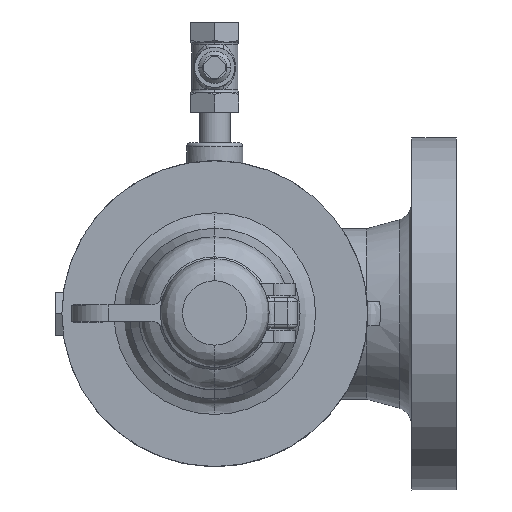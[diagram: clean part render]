
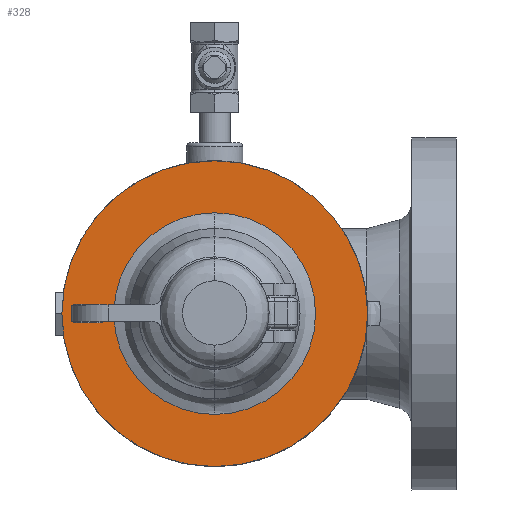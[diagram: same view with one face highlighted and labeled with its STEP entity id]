
A CAD part, top view. The second image highlights one B-rep face of the part: STEP entity #328.
In plain terms, the highlighted planar face has unit normal (0, 0, 1) as drawn and (0, 1, 0) by its records, which use the part's own axes.
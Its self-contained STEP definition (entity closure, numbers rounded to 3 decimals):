
#328=ADVANCED_FACE('',(#1243,#1244),#1242,.T.);
#1242=PLANE('',#7386);
#1243=FACE_OUTER_BOUND('',#7387,.T.);
#1244=FACE_BOUND('',#7388,.T.);
#7383=CARTESIAN_POINT('',(-141.636,90.,-162.));
#7384=DIRECTION('',(0.,1.,0.));
#7385=DIRECTION('',(0.,0.,1.));
#7386=AXIS2_PLACEMENT_3D('',#7383,#7384,#7385);
#7387=EDGE_LOOP('',(#16976,#16977));
#7388=EDGE_LOOP('',(#16978,#16979));
#16976=ORIENTED_EDGE('',*,*,#18742,.T.);
#16977=ORIENTED_EDGE('',*,*,#18743,.T.);
#16978=ORIENTED_EDGE('',*,*,#18744,.T.);
#16979=ORIENTED_EDGE('',*,*,#18745,.T.);
#18742=EDGE_CURVE('',#21100,#21101,#21102,.T.);
#18743=EDGE_CURVE('',#21101,#21100,#21108,.T.);
#18744=EDGE_CURVE('',#21114,#21115,#21116,.T.);
#18745=EDGE_CURVE('',#21115,#21114,#21122,.T.);
#21100=VERTEX_POINT('',#27540);
#21101=VERTEX_POINT('',#27541);
#21102=CIRCLE('',#27545,76.);
#21108=CIRCLE('',#27549,76.);
#21114=VERTEX_POINT('',#27550);
#21115=VERTEX_POINT('',#27551);
#21116=CIRCLE('',#27555,50.139);
#21122=CIRCLE('',#27559,50.139);
#27540=CARTESIAN_POINT('',(0.,90.,76.));
#27541=CARTESIAN_POINT('',(0.,90.,-76.));
#27542=CARTESIAN_POINT('',(0.,90.,0.));
#27543=DIRECTION('',(0.,1.,0.));
#27544=DIRECTION('',(0.,0.,1.));
#27545=AXIS2_PLACEMENT_3D('',#27542,#27543,#27544);
#27546=CARTESIAN_POINT('',(0.,90.,0.));
#27547=DIRECTION('',(0.,1.,0.));
#27548=DIRECTION('',(0.,0.,1.));
#27549=AXIS2_PLACEMENT_3D('',#27546,#27547,#27548);
#27550=CARTESIAN_POINT('',(0.,90.,50.139));
#27551=CARTESIAN_POINT('',(0.,90.,-50.139));
#27552=CARTESIAN_POINT('',(0.,90.,0.));
#27553=DIRECTION('',(0.,-1.,0.));
#27554=DIRECTION('',(0.,0.,1.));
#27555=AXIS2_PLACEMENT_3D('',#27552,#27553,#27554);
#27556=CARTESIAN_POINT('',(0.,90.,0.));
#27557=DIRECTION('',(0.,-1.,0.));
#27558=DIRECTION('',(0.,0.,1.));
#27559=AXIS2_PLACEMENT_3D('',#27556,#27557,#27558);
